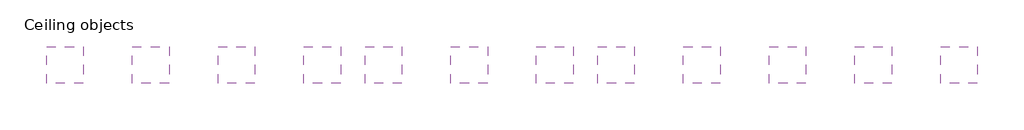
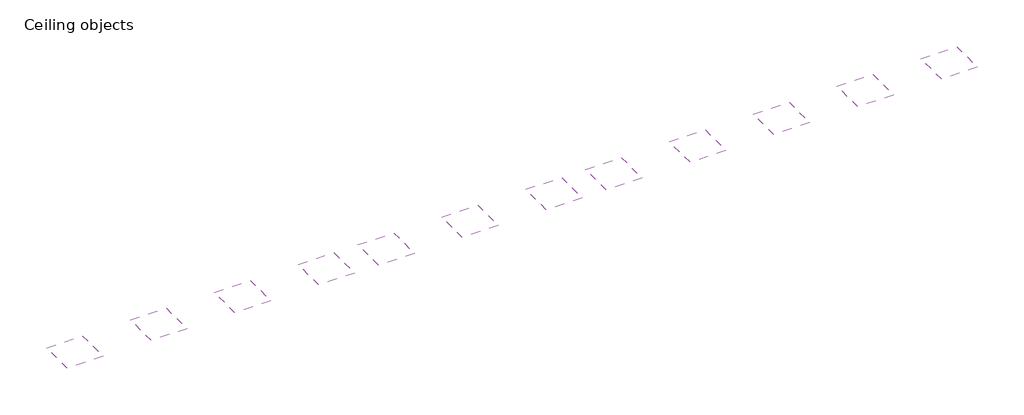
# One storey: 12 coverings.
"""IFC4 building model written with IfcOpenShell, lengths in millimetres."""

from ifc_helpers import new_model, si_unit, frame, origin, place, context, project, spatial, polyline, outline, extrude, element, save

model = new_model("IFC4")

# Units and contexts
model_context = context("Model", 3, world=origin())
ifc_project = project(units=[si_unit("LENGTHUNIT", "METRE", prefix="MILLI")], contexts=[model_context])

# Site, building, storey
site = spatial("IfcSite", under=ifc_project)
building = spatial("IfcBuilding", under=site)
storey = spatial("IfcBuildingStorey", under=building, Name="Ceiling objects", Elevation=0.0)

# Coverings
placement = place(None, origin())
element("IfcCovering", 1, ObjectType="Knauf Danoline Designpanel Globe-G1F 900x2700x12.5_A1", at=placement, inside=storey, context=model_context, shape_type="SweptSolid", body=[
    extrude(outline(polyline([(-4783.0103193, 8117.0281757), (-4783.0103193, 5117.0281757), (-7783.0103193, 5117.0281757), (-7783.0103193, 8117.0281757), (-4783.0103193, 8117.0281757)])), frame((0.0, 0.0, 2600.0), z_axis=(0.0, 0.0, 1.0), x_axis=(1.0, 0.0, 0.0)), (0.0, 0.0, 1.0), 12.5),
])
element("IfcCovering", 2, ObjectType="Knauf Danoline Designpanel Globe-G2F 1200x2400x12.5_A1", at=placement, inside=storey, context=model_context, shape_type="SweptSolid", body=[
    extrude(outline(polyline([(2216.9899047, 8117.0281757), (2216.9899047, 5117.0281757), (-783.0100953, 5117.0281757), (-783.0100953, 8117.0281757), (2216.9899047, 8117.0281757)])), frame((0.0, 0.0, 2600.0), z_axis=(0.0, 0.0, 1.0), x_axis=(1.0, 0.0, 0.0)), (0.0, 0.0, 1.0), 12.5),
])
element("IfcCovering", 3, ObjectType="Knauf Danoline Designpanel Micro-M1F 900x2700x12.5_A1", at=placement, inside=storey, context=model_context, shape_type="SweptSolid", body=[
    extrude(outline(polyline([(9216.9901287, 8117.0281757), (9216.9901287, 5117.0281757), (6216.9901287, 5117.0281757), (6216.9901287, 8117.0281757), (9216.9901287, 8117.0281757)])), frame((0.0, 0.0, 2600.0), z_axis=(0.0, 0.0, 1.0), x_axis=(1.0, 0.0, 0.0)), (0.0, 0.0, 1.0), 12.5),
])
element("IfcCovering", 4, ObjectType="Knauf Danoline Designpanel Micro-M2F 900x2700x12.5_A1", at=placement, inside=storey, context=model_context, shape_type="SweptSolid", body=[
    extrude(outline(polyline([(16216.9903527, 8117.0281757), (16216.9903527, 5117.0281757), (13216.9903527, 5117.0281757), (13216.9903527, 8117.0281757), (16216.9903527, 8117.0281757)])), frame((0.0, 0.0, 2600.0), z_axis=(0.0, 0.0, 1.0), x_axis=(1.0, 0.0, 0.0)), (0.0, 0.0, 1.0), 12.5),
])
element("IfcCovering", 5, ObjectType="Knauf Danoline Designpanel Micro-M2F 1200x2400x12.5_A1", at=placement, inside=storey, context=model_context, shape_type="SweptSolid", body=[
    extrude(outline(polyline([(21216.9905127, 8117.0281757), (21216.9905127, 5117.0281757), (18216.9905127, 5117.0281757), (18216.9905127, 8117.0281757), (21216.9905127, 8117.0281757)])), frame((0.0, 0.0, 2600.0), z_axis=(0.0, 0.0, 1.0), x_axis=(1.0, 0.0, 0.0)), (0.0, 0.0, 1.0), 12.5),
])
element("IfcCovering", 6, ObjectType="Knauf Danoline Designpanel Quadril-Q1F 900x2700x12.5_A1", at=placement, inside=storey, context=model_context, shape_type="SweptSolid", body=[
    extrude(outline(polyline([(28216.9907367, 8117.0281757), (28216.9907367, 5117.0281757), (25216.9907367, 5117.0281757), (25216.9907367, 8117.0281757), (28216.9907367, 8117.0281757)])), frame((0.0, 0.0, 2600.0), z_axis=(0.0, 0.0, 1.0), x_axis=(1.0, 0.0, 0.0)), (0.0, 0.0, 1.0), 12.5),
])
element("IfcCovering", 7, ObjectType="Knauf Danoline Designpanel Quadril-Q2F 900x2700x12.5_A1", at=placement, inside=storey, context=model_context, shape_type="SweptSolid", body=[
    extrude(outline(polyline([(35216.9909607, 8117.0281757), (35216.9909607, 5117.0281757), (32216.9909607, 5117.0281757), (32216.9909607, 8117.0281757), (35216.9909607, 8117.0281757)])), frame((0.0, 0.0, 2600.0), z_axis=(0.0, 0.0, 1.0), x_axis=(1.0, 0.0, 0.0)), (0.0, 0.0, 1.0), 12.5),
])
element("IfcCovering", 8, ObjectType="Knauf Danoline Designpanel Quadril-Q2F 1200x2400x12.5_A1", at=placement, inside=storey, context=model_context, shape_type="SweptSolid", body=[
    extrude(outline(polyline([(40216.9911207, 8117.0281757), (40216.9911207, 5117.0281757), (37216.9911207, 5117.0281757), (37216.9911207, 8117.0281757), (40216.9911207, 8117.0281757)])), frame((0.0, 0.0, 2600.0), z_axis=(0.0, 0.0, 1.0), x_axis=(1.0, 0.0, 0.0)), (0.0, 0.0, 1.0), 12.5),
])
element("IfcCovering", 9, ObjectType="Knauf Danoline Designpanel Regular 1200x2400x12.5_A1", at=placement, inside=storey, context=model_context, shape_type="SweptSolid", body=[
    extrude(outline(polyline([(47216.9913447, 8117.0281757), (47216.9913447, 5117.0281757), (44216.9913447, 5117.0281757), (44216.9913447, 8117.0281757), (47216.9913447, 8117.0281757)])), frame((0.0, 0.0, 2600.0), z_axis=(0.0, 0.0, 1.0), x_axis=(1.0, 0.0, 0.0)), (0.0, 0.0, 1.0), 12.5),
])
element("IfcCovering", 10, ObjectType="Knauf Danoline Designpanel Tangent-T3L1 900x2400x12.5_A1", at=placement, inside=storey, context=model_context, shape_type="SweptSolid", body=[
    extrude(outline(polyline([(54216.9915687, 8117.0281757), (54216.9915687, 5117.0281757), (51216.9915687, 5117.0281757), (51216.9915687, 8117.0281757), (54216.9915687, 8117.0281757)])), frame((0.0, 0.0, 2600.0), z_axis=(0.0, 0.0, 1.0), x_axis=(1.0, 0.0, 0.0)), (0.0, 0.0, 1.0), 12.5),
])
element("IfcCovering", 11, ObjectType="Knauf Danoline Designpanel Tangent-T3L2 900x2400x12.5_A1", at=placement, inside=storey, context=model_context, shape_type="SweptSolid", body=[
    extrude(outline(polyline([(61216.9917927, 8117.0281757), (61216.9917927, 5117.0281757), (58216.9917927, 5117.0281757), (58216.9917927, 8117.0281757), (61216.9917927, 8117.0281757)])), frame((0.0, 0.0, 2600.0), z_axis=(0.0, 0.0, 1.0), x_axis=(1.0, 0.0, 0.0)), (0.0, 0.0, 1.0), 12.5),
])
element("IfcCovering", 12, ObjectType="Knauf Danoline Designpanel Tangent-T3L4 900x2400x12.5_A1", at=placement, inside=storey, context=model_context, shape_type="SweptSolid", body=[
    extrude(outline(polyline([(68216.9920167, 8117.0281757), (68216.9920167, 5117.0281757), (65216.9920167, 5117.0281757), (65216.9920167, 8117.0281757), (68216.9920167, 8117.0281757)])), frame((0.0, 0.0, 2600.0), z_axis=(0.0, 0.0, 1.0), x_axis=(1.0, 0.0, 0.0)), (0.0, 0.0, 1.0), 12.5),
])

save(model, "model.ifc")
